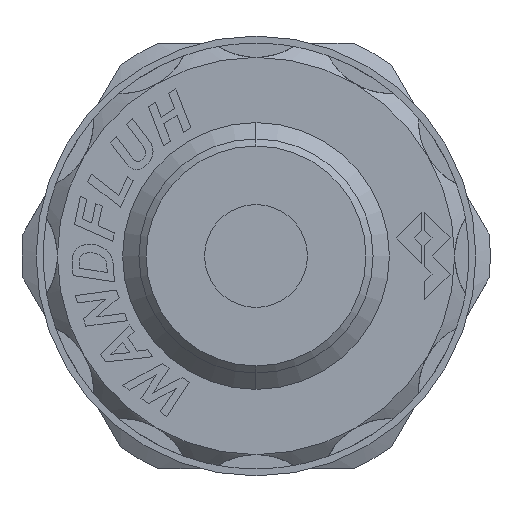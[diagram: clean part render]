
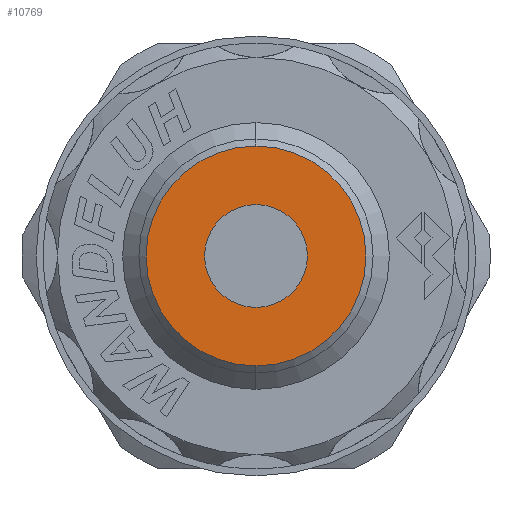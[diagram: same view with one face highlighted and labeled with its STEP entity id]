
A CAD part, left-side view. The second image highlights one B-rep face of the part: STEP entity #10769.
In plain terms, the highlighted planar face has unit normal (-1, 0, 0).
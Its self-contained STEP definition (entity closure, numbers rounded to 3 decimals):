
#118 = VERTEX_POINT ( 'NONE', #5882 ) ;
#195 = EDGE_CURVE ( 'NONE', #7489, #11773, #13978, .T. ) ;
#377 = EDGE_CURVE ( 'NONE', #11773, #7489, #1499, .T. ) ;
#965 = CARTESIAN_POINT ( 'NONE',  ( -70.9, 0., 0. ) ) ;
#999 = AXIS2_PLACEMENT_3D ( 'NONE', #15513, #5911, #14151 ) ;
#1220 = CARTESIAN_POINT ( 'NONE',  ( -70.9, 0., 7.75 ) ) ;
#1225 = AXIS2_PLACEMENT_3D ( 'NONE', #1627, #1332, #1395 ) ;
#1283 = AXIS2_PLACEMENT_3D ( 'NONE', #5739, #15342, #17444 ) ;
#1332 = DIRECTION ( 'NONE',  ( -1., 0., 0. ) ) ;
#1395 = DIRECTION ( 'NONE',  ( 0., 0., -1. ) ) ;
#1499 = CIRCLE ( 'NONE', #10440, 7.75 ) ;
#1627 = CARTESIAN_POINT ( 'NONE',  ( -70.9, -3.625, 0. ) ) ;
#1695 = VERTEX_POINT ( 'NONE', #8151 ) ;
#2069 = EDGE_CURVE ( 'NONE', #118, #1695, #14220, .T. ) ;
#3713 = CARTESIAN_POINT ( 'NONE',  ( -70.9, 0., 0. ) ) ;
#4286 = EDGE_CURVE ( 'NONE', #1695, #118, #8926, .T. ) ;
#4975 = DIRECTION ( 'NONE',  ( 0., 0., -1. ) ) ;
#5273 = FACE_BOUND ( 'NONE', #17032, .T. ) ;
#5739 = CARTESIAN_POINT ( 'NONE',  ( -70.9, 0., 0. ) ) ;
#5882 = CARTESIAN_POINT ( 'NONE',  ( -70.9, 0., -3.625 ) ) ;
#5911 = DIRECTION ( 'NONE',  ( -1., 0., 0. ) ) ;
#7035 = DIRECTION ( 'NONE',  ( -1., 0., 0. ) ) ;
#7211 = EDGE_LOOP ( 'NONE', ( #15794, #7717 ) ) ;
#7489 = VERTEX_POINT ( 'NONE', #8214 ) ;
#7717 = ORIENTED_EDGE ( 'NONE', *, *, #195, .T. ) ;
#8151 = CARTESIAN_POINT ( 'NONE',  ( -70.9, 0., 3.625 ) ) ;
#8214 = CARTESIAN_POINT ( 'NONE',  ( -70.9, 0., -7.75 ) ) ;
#8234 = AXIS2_PLACEMENT_3D ( 'NONE', #965, #7035, #17027 ) ;
#8877 = FACE_OUTER_BOUND ( 'NONE', #7211, .T. ) ;
#8926 = CIRCLE ( 'NONE', #8234, 3.625 ) ;
#9457 = PLANE ( 'NONE',  #1225 ) ;
#10440 = AXIS2_PLACEMENT_3D ( 'NONE', #3713, #11959, #4975 ) ;
#10769 = ADVANCED_FACE ( 'NONE', ( #8877, #5273 ), #9457, .T. ) ;
#11773 = VERTEX_POINT ( 'NONE', #1220 ) ;
#11959 = DIRECTION ( 'NONE',  ( -1., 0., 0. ) ) ;
#13750 = ORIENTED_EDGE ( 'NONE', *, *, #4286, .F. ) ;
#13978 = CIRCLE ( 'NONE', #1283, 7.75 ) ;
#14151 = DIRECTION ( 'NONE',  ( 0., 0., -1. ) ) ;
#14220 = CIRCLE ( 'NONE', #999, 3.625 ) ;
#15342 = DIRECTION ( 'NONE',  ( -1., 0., 0. ) ) ;
#15502 = ORIENTED_EDGE ( 'NONE', *, *, #2069, .F. ) ;
#15513 = CARTESIAN_POINT ( 'NONE',  ( -70.9, 0., 0. ) ) ;
#15794 = ORIENTED_EDGE ( 'NONE', *, *, #377, .T. ) ;
#17027 = DIRECTION ( 'NONE',  ( 0., 0., -1. ) ) ;
#17032 = EDGE_LOOP ( 'NONE', ( #15502, #13750 ) ) ;
#17444 = DIRECTION ( 'NONE',  ( 0., 0., -1. ) ) ;
